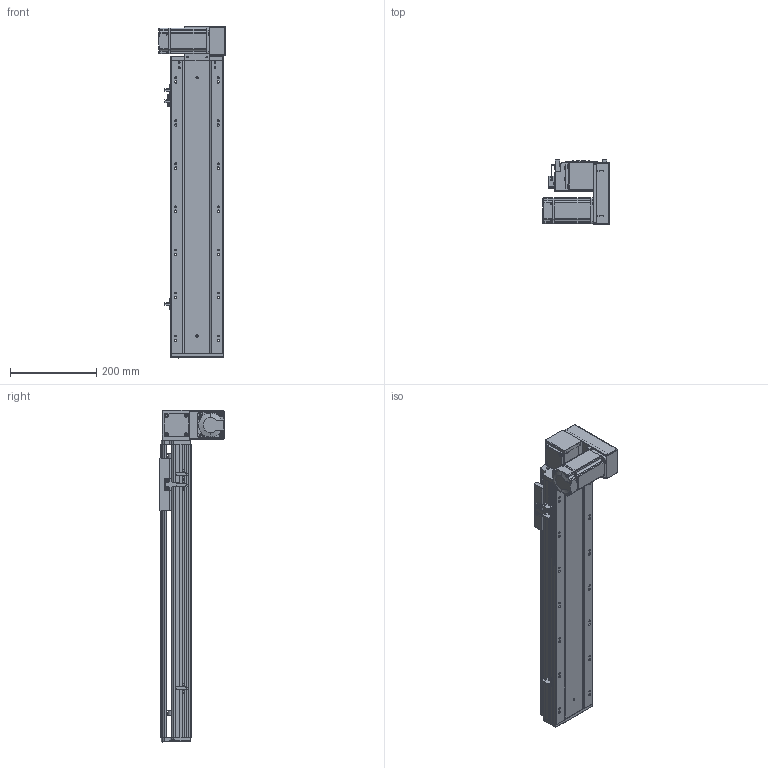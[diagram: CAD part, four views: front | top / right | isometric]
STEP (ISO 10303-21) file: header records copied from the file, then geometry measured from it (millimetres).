
FILE_DESCRIPTION (( 'STEP AP203' ), '1' );
FILE_NAME ('RY120-T-300-DR.SLDASM_450.step', '2021-03-01T03:34:48', ( '盈信电脑' ), ( '东莞市道滘镇水果街19号' ), 'SwSTEP 2.0', 'SolidWorks 2012', '' );
FILE_SCHEMA (( 'CONFIG_CONTROL_DESIGN' ));
Length unit declared in the file: millimetre
Products named in the file (17): RY120-T蹟翐M4; RY120-T-300-DR.SLDASM_450; RY120-T主同步轮轴承压盖; RY120-T萇儂欶; RY120-T萇儂假蚾啣; RY120-T翋肮祭謫裔啣; 15; 滅袉蝶18-10; RY120-T翋肮祭盓傅釱; RY120-T肮祭湍揤踡輸2; 覜茼ん672; RY120外置感应片(140共用）; RY120-T肮祭湍揤踡輸1; RY120肮祭湍臏賑輸; RY120綴裔啣; RY120-T-300-DR倰第菁釱_450; RY120-T-300-DR倰第奻裔啣_450
Assembly tree (22 placements, depth 2):
  RY120-T-300-DR.SLDASM_450
    RY120-T-300-DR倰第菁釱_450
    RY120-T-300-DR倰第奻裔啣_450
    RY120肮祭湍臏賑輸
    RY120綴裔啣
    覜茼ん672  x3
    RY120外置感应片(140共用）
    RY120-T肮祭湍揤踡輸1
    RY120-T肮祭湍揤踡輸2
    RY120-T翋肮祭盓傅釱
    滅袉蝶18-10  x2
    RY120-T翋肮祭謫裔啣
    15
    RY120-T萇儂假蚾啣
    RY120-T蹟翐M4  x4
    RY120-T萇儂欶
    RY120-T主同步轮轴承压盖
Bounding box: 155.5 x 150 x 771 mm (x, y, z)
Volume: 2409601.6 mm3; surface area: 874244 mm2
Topology: 23 solids, 23 shells, 2752 faces, 7512 edges, 4838 vertices
Faces by surface type: plane 1416, cylinder 1030, cone 217, bspline 89
Entity records: 87769 total; most frequent: CARTESIAN_POINT 22380, ORIENTED_EDGE 13512, DIRECTION 12726, EDGE_CURVE 6756, VERTEX_POINT 4425, LINE 4248, VECTOR 4248, AXIS2_PLACEMENT_3D 4239
